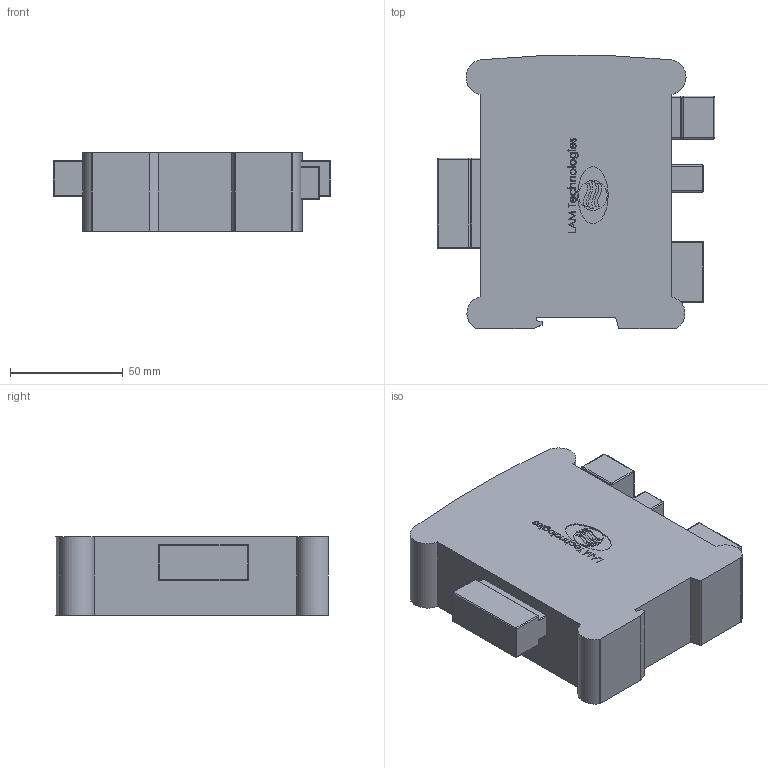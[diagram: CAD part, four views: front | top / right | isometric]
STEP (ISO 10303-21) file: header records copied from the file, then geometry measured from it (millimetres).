
FILE_DESCRIPTION (( 'STEP AP203' ), '1' );
FILE_NAME ('DDS72_350.STEP', '2018-11-09T10:30:28', ( '' ), ( '' ), 'SwSTEP 2.0', 'SolidWorks 2014', '' );
FILE_SCHEMA (( 'CONFIG_CONTROL_DESIGN' ));
Length unit declared in the file: millimetre
Products named in the file (3): DDS72_350; Connectors^DDS72_350; Body_350
Assembly tree (2 placements, depth 2):
  DDS72_350
    Body_350
    Connectors^DDS72_350
Bounding box: 123 x 121.04 x 35 mm (x, y, z)
Volume: 394712.2 mm3; surface area: 47434.3 mm2
Topology: 5 solids, 5 shells, 615 faces, 1549 edges, 962 vertices
Faces by surface type: plane 267, bspline 210, cylinder 90, sphere 36, torus 12
Entity records: 28558 total; most frequent: CARTESIAN_POINT 15105, ORIENTED_EDGE 3026, DIRECTION 2081, EDGE_CURVE 1513, VERTEX_POINT 962, LINE 909, VECTOR 909, EDGE_LOOP 669
